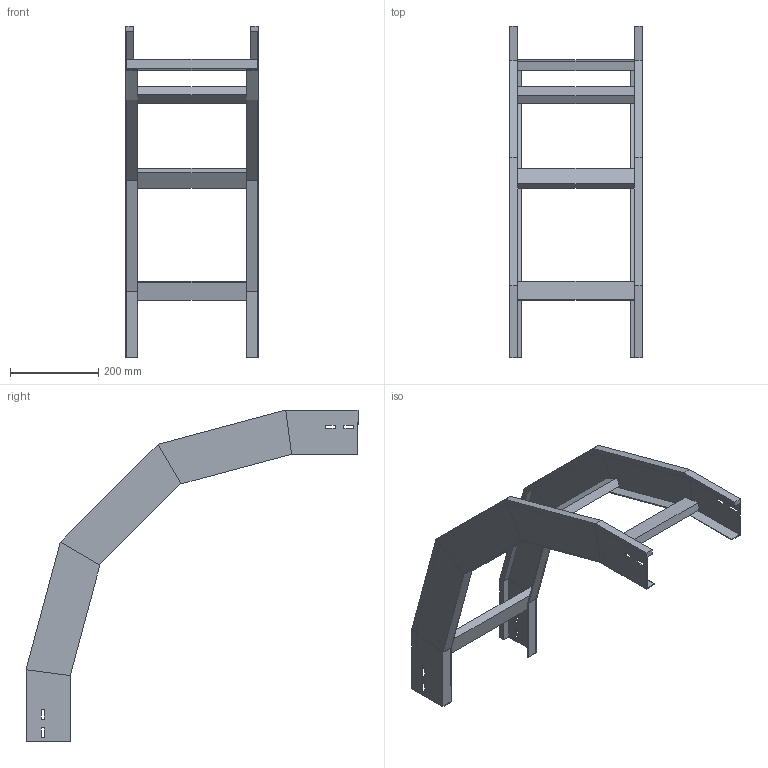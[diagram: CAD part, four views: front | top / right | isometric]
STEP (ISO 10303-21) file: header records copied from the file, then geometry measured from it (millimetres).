
FILE_DESCRIPTION (( 'STEP AP214' ), '1' );
FILE_NAME ('33B5D300.step', '2025-02-21T15:01:05', ( '' ), ( '' ), 'SwSTEP 2.0', 'SolidWorks 2023', '' );
FILE_SCHEMA (( 'AUTOMOTIVE_DESIGN' ));
Length unit declared in the file: millimetre
Products named in the file (3): 33B5D300; LONGH.DISCESA_90°_H100_R500; TRAVERSINO_300
Assembly tree (6 placements, depth 2):
  33B5D300
    LONGH.DISCESA_90°_H100_R500  x2
    TRAVERSINO_300  x4
Bounding box: 300 x 750.35 x 750.35 mm (x, y, z)
Volume: 1998468.1 mm3; surface area: 808403.4 mm2
Topology: 6 solids, 6 shells, 140 faces, 320 edges, 192 vertices
Faces by surface type: plane 140
Entity records: 1872 total; most frequent: CARTESIAN_POINT 309, ORIENTED_EDGE 296, DIRECTION 294, LINE 148, EDGE_CURVE 148, VECTOR 148, VERTEX_POINT 88, AXIS2_PLACEMENT_3D 73
